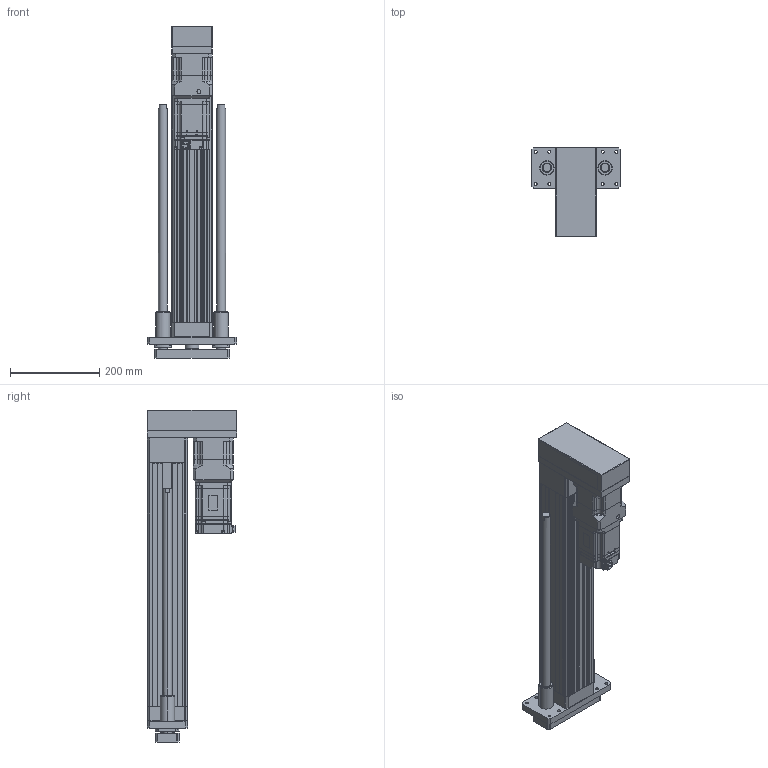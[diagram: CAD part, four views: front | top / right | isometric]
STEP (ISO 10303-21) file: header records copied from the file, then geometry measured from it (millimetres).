
FILE_DESCRIPTION (( 'STEP AP203' ), '1' );
FILE_NAME ('ANS090H-GP400-05(10)(25)-W75G05.STEP', '2019-03-18T03:09:33', ( 'user' ), ( '' ), 'SwSTEP 2.0', 'SolidWorks 2013', '' );
FILE_SCHEMA (( 'CONFIG_CONTROL_DESIGN' ));
Length unit declared in the file: millimetre
Products named in the file (5): AB090-005-S1-P2[YASKAWA SGMJV08A]; ANS090H-GP400-05(10)(25)-W75G05; ANS090H GP400 VER2; ANS090 ROD ST400-G; SGMJV_08A_A21
Assembly tree (4 placements, depth 2):
  ANS090H-GP400-05(10)(25)-W75G05
    ANS090H GP400 VER2
    ANS090 ROD ST400-G
    SGMJV_08A_A21
    AB090-005-S1-P2[YASKAWA SGMJV08A]
Bounding box: 200 x 200 x 742 mm (x, y, z)
Volume: 4611547.7 mm3; surface area: 944453.3 mm2
Topology: 3 solids, 14 shells, 1545 faces, 4030 edges, 2588 vertices
Faces by surface type: plane 828, cylinder 529, cone 164, bspline 12, sphere 8, torus 4
Entity records: 48188 total; most frequent: CARTESIAN_POINT 9040, DIRECTION 8191, ORIENTED_EDGE 7932, EDGE_CURVE 4010, AXIS2_PLACEMENT_3D 2779, VECTOR 2633, LINE 2633, VERTEX_POINT 2588
